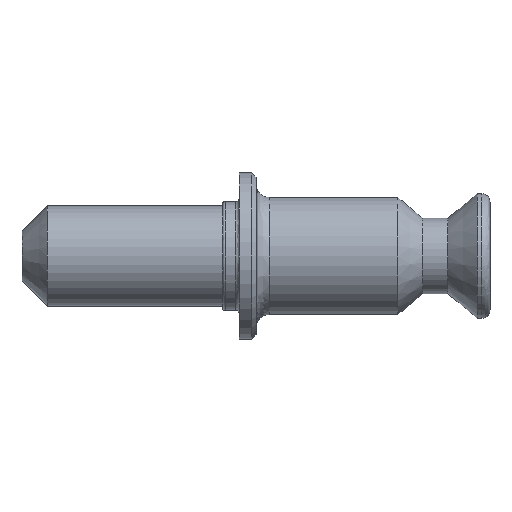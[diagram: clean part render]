
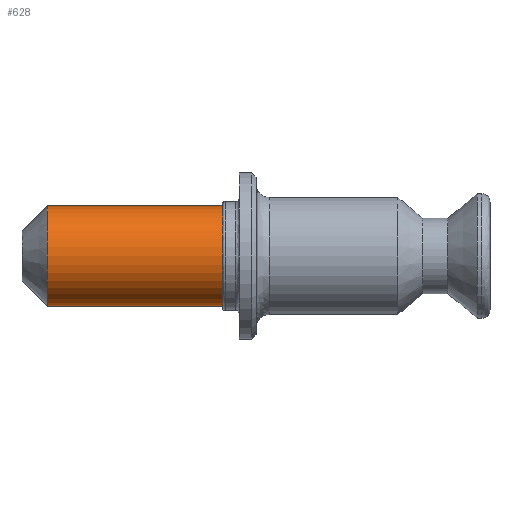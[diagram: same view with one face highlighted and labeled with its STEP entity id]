
A CAD part, left-side view. The second image highlights one B-rep face of the part: STEP entity #628.
In plain terms, the highlighted cylindrical face has radius 3 mm (diameter 6 mm), a partial arc.
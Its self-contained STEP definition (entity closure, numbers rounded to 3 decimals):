
#82 = AXIS2_PLACEMENT_3D ( 'NONE', #1944, #2136, #499 ) ;
#327 = VERTEX_POINT ( 'NONE', #2300 ) ;
#335 = DIRECTION ( 'NONE',  ( 0., 1., 0. ) ) ;
#412 = CARTESIAN_POINT ( 'NONE',  ( 0., 8.32, -3. ) ) ;
#499 = DIRECTION ( 'NONE',  ( 0., 0., 1. ) ) ;
#628 = ADVANCED_FACE ( 'NONE', ( #2192 ), #788, .T. ) ;
#684 = ORIENTED_EDGE ( 'NONE', *, *, #1717, .T. ) ;
#754 = CARTESIAN_POINT ( 'NONE',  ( 0., 8.32, 0. ) ) ;
#788 = CYLINDRICAL_SURFACE ( 'NONE', #1219, 3. ) ;
#852 = VERTEX_POINT ( 'NONE', #949 ) ;
#863 = ORIENTED_EDGE ( 'NONE', *, *, #1293, .F. ) ;
#949 = CARTESIAN_POINT ( 'NONE',  ( 0., 26.5, -3. ) ) ;
#998 = ORIENTED_EDGE ( 'NONE', *, *, #1262, .T. ) ;
#1009 = ORIENTED_EDGE ( 'NONE', *, *, #1895, .T. ) ;
#1192 = DIRECTION ( 'NONE',  ( 0., 0., 1. ) ) ;
#1204 = DIRECTION ( 'NONE',  ( 0., -1., 0. ) ) ;
#1219 = AXIS2_PLACEMENT_3D ( 'NONE', #1248, #1204, #1192 ) ;
#1240 = VECTOR ( 'NONE', #1259, 1000. ) ;
#1248 = CARTESIAN_POINT ( 'NONE',  ( 0., -4.7, 0. ) ) ;
#1250 = CARTESIAN_POINT ( 'NONE',  ( 0., -4.7, -3. ) ) ;
#1259 = DIRECTION ( 'NONE',  ( 0., -1., 0. ) ) ;
#1262 = EDGE_CURVE ( 'NONE', #2026, #327, #1428, .T. ) ;
#1293 = EDGE_CURVE ( 'NONE', #2282, #327, #1384, .T. ) ;
#1312 = CIRCLE ( 'NONE', #82, 3. ) ;
#1384 = LINE ( 'NONE', #1499, #1240 ) ;
#1395 = EDGE_LOOP ( 'NONE', ( #1009, #684, #998, #863 ) ) ;
#1428 = CIRCLE ( 'NONE', #1492, 3. ) ;
#1441 = CARTESIAN_POINT ( 'NONE',  ( 0., 26.5, 3. ) ) ;
#1492 = AXIS2_PLACEMENT_3D ( 'NONE', #754, #335, #2139 ) ;
#1499 = CARTESIAN_POINT ( 'NONE',  ( 0., -4.7, 3. ) ) ;
#1534 = VECTOR ( 'NONE', #1771, 1000. ) ;
#1717 = EDGE_CURVE ( 'NONE', #852, #2026, #2215, .T. ) ;
#1771 = DIRECTION ( 'NONE',  ( 0., -1., 0. ) ) ;
#1895 = EDGE_CURVE ( 'NONE', #2282, #852, #1312, .T. ) ;
#1944 = CARTESIAN_POINT ( 'NONE',  ( 0., 26.5, 0. ) ) ;
#2026 = VERTEX_POINT ( 'NONE', #412 ) ;
#2136 = DIRECTION ( 'NONE',  ( 0., -1., 0. ) ) ;
#2139 = DIRECTION ( 'NONE',  ( 0., 0., 1. ) ) ;
#2192 = FACE_OUTER_BOUND ( 'NONE', #1395, .T. ) ;
#2215 = LINE ( 'NONE', #1250, #1534 ) ;
#2282 = VERTEX_POINT ( 'NONE', #1441 ) ;
#2300 = CARTESIAN_POINT ( 'NONE',  ( 0., 8.32, 3. ) ) ;
